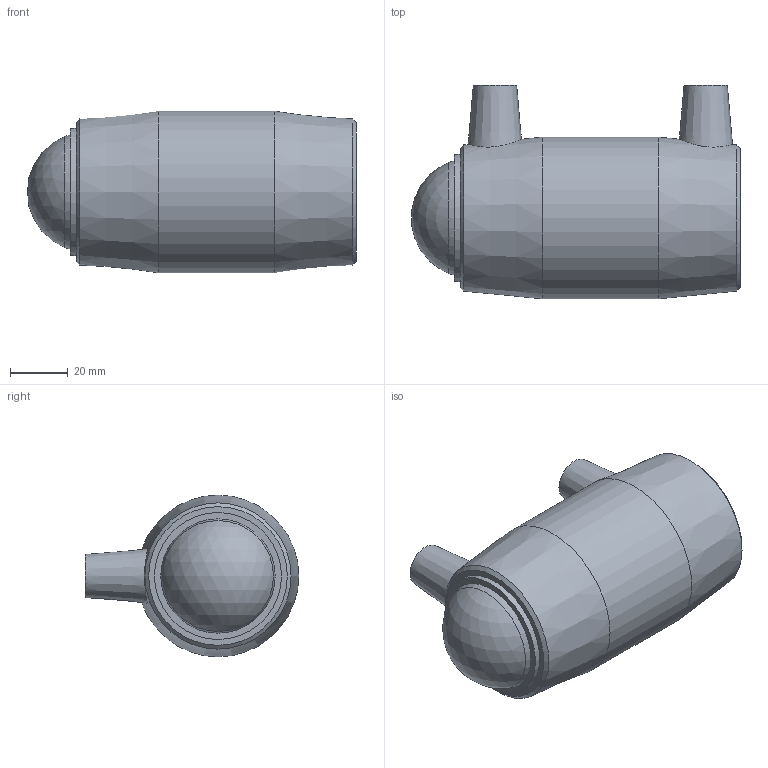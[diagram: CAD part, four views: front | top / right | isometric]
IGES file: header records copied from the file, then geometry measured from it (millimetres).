
Global section: file name: 491204040.ipt; native system: Autodesk Inventor 2015; preprocessor: unknown; author: KIM; date: 20171106.093750; units: millimetre
Bounding box: 113.86 x 74 x 56 mm (x, y, z)
Volume: 137155.9 mm3; surface area: 36450.9 mm2
Topology: 1 solids, 1 shells, 37 faces, 82 edges, 58 vertices
Faces by surface type: plane 13, revolution 13, cone 6, cylinder 4, sphere 1
Full cylindrical faces by diameter (mm): 4 x2, 44 x1, 56 x1
